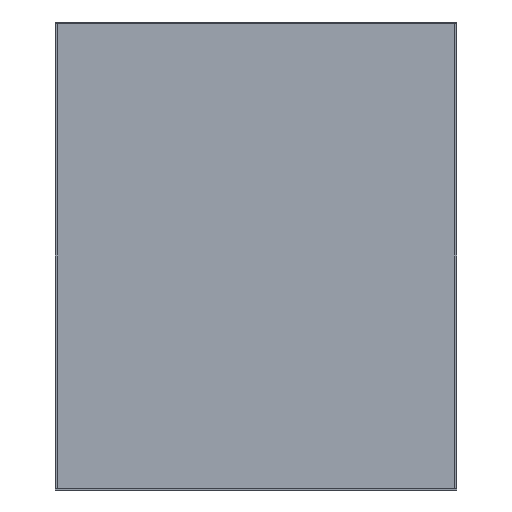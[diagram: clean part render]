
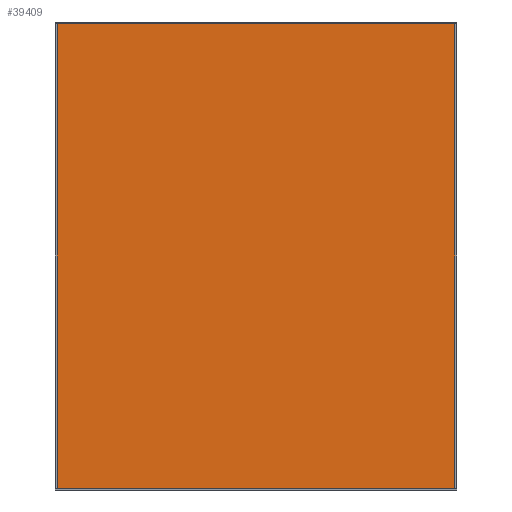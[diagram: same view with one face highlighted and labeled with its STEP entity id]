
A CAD part, front view. The second image highlights one B-rep face of the part: STEP entity #39409.
In plain terms, the highlighted planar face has unit normal (0, -1, 0).
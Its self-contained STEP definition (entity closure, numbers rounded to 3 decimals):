
#39193 = EDGE_CURVE('',#39194,#39196,#39198,.T.);
#39194 = VERTEX_POINT('',#39195);
#39195 = CARTESIAN_POINT('',(-0.155,-0.096,0.002)
  );
#39196 = VERTEX_POINT('',#39197);
#39197 = CARTESIAN_POINT('',(-0.155,-0.096,
    0.364));
#39198 = SURFACE_CURVE('',#39199,(#39203,#39215),.PCURVE_S1.);
#39199 = LINE('',#39200,#39201);
#39200 = CARTESIAN_POINT('',(-0.155,-0.096,0.002)
  );
#39201 = VECTOR('',#39202,1.);
#39202 = DIRECTION('',(0.,0.,1.));
#39203 = PCURVE('',#39204,#39209);
#39204 = PLANE('',#39205);
#39205 = AXIS2_PLACEMENT_3D('',#39206,#39207,#39208);
#39206 = CARTESIAN_POINT('',(-0.155,-0.096,0.002)
  );
#39207 = DIRECTION('',(1.,0.,0.));
#39208 = DIRECTION('',(0.,0.,1.));
#39209 = DEFINITIONAL_REPRESENTATION('',(#39210),#39214);
#39210 = LINE('',#39211,#39212);
#39211 = CARTESIAN_POINT('',(0.,0.));
#39212 = VECTOR('',#39213,1.);
#39213 = DIRECTION('',(1.,0.));
#39214 = ( GEOMETRIC_REPRESENTATION_CONTEXT(2) 
PARAMETRIC_REPRESENTATION_CONTEXT() REPRESENTATION_CONTEXT('2D SPACE',''
  ) );
#39215 = PCURVE('',#39216,#39221);
#39216 = PLANE('',#39217);
#39217 = AXIS2_PLACEMENT_3D('',#39218,#39219,#39220);
#39218 = CARTESIAN_POINT('',(-0.155,-0.096,0.002)
  );
#39219 = DIRECTION('',(0.,1.,0.));
#39220 = DIRECTION('',(0.,0.,1.));
#39221 = DEFINITIONAL_REPRESENTATION('',(#39222),#39226);
#39222 = LINE('',#39223,#39224);
#39223 = CARTESIAN_POINT('',(0.,0.));
#39224 = VECTOR('',#39225,1.);
#39225 = DIRECTION('',(1.,0.));
#39226 = ( GEOMETRIC_REPRESENTATION_CONTEXT(2) 
PARAMETRIC_REPRESENTATION_CONTEXT() REPRESENTATION_CONTEXT('2D SPACE',''
  ) );
#39244 = PLANE('',#39245);
#39245 = AXIS2_PLACEMENT_3D('',#39246,#39247,#39248);
#39246 = CARTESIAN_POINT('',(-0.155,-0.096,0.002)
  );
#39247 = DIRECTION('',(0.,0.,1.));
#39248 = DIRECTION('',(1.,0.,0.));
#39298 = PLANE('',#39299);
#39299 = AXIS2_PLACEMENT_3D('',#39300,#39301,#39302);
#39300 = CARTESIAN_POINT('',(-0.155,-0.096,
    0.364));
#39301 = DIRECTION('',(0.,0.,1.));
#39302 = DIRECTION('',(1.,0.,0.));
#39313 = EDGE_CURVE('',#39314,#39316,#39318,.T.);
#39314 = VERTEX_POINT('',#39315);
#39315 = CARTESIAN_POINT('',(0.155,-0.096,0.002)
  );
#39316 = VERTEX_POINT('',#39317);
#39317 = CARTESIAN_POINT('',(0.155,-0.096,
    0.364));
#39318 = SURFACE_CURVE('',#39319,(#39323,#39335),.PCURVE_S1.);
#39319 = LINE('',#39320,#39321);
#39320 = CARTESIAN_POINT('',(0.155,-0.096,0.002)
  );
#39321 = VECTOR('',#39322,1.);
#39322 = DIRECTION('',(0.,0.,1.));
#39323 = PCURVE('',#39324,#39329);
#39324 = PLANE('',#39325);
#39325 = AXIS2_PLACEMENT_3D('',#39326,#39327,#39328);
#39326 = CARTESIAN_POINT('',(0.155,-0.096,0.002)
  );
#39327 = DIRECTION('',(1.,0.,0.));
#39328 = DIRECTION('',(0.,0.,1.));
#39329 = DEFINITIONAL_REPRESENTATION('',(#39330),#39334);
#39330 = LINE('',#39331,#39332);
#39331 = CARTESIAN_POINT('',(0.,0.));
#39332 = VECTOR('',#39333,1.);
#39333 = DIRECTION('',(1.,0.));
#39334 = ( GEOMETRIC_REPRESENTATION_CONTEXT(2) 
PARAMETRIC_REPRESENTATION_CONTEXT() REPRESENTATION_CONTEXT('2D SPACE',''
  ) );
#39335 = PCURVE('',#39216,#39336);
#39336 = DEFINITIONAL_REPRESENTATION('',(#39337),#39341);
#39337 = LINE('',#39338,#39339);
#39338 = CARTESIAN_POINT('',(0.,0.31));
#39339 = VECTOR('',#39340,1.);
#39340 = DIRECTION('',(1.,0.));
#39341 = ( GEOMETRIC_REPRESENTATION_CONTEXT(2) 
PARAMETRIC_REPRESENTATION_CONTEXT() REPRESENTATION_CONTEXT('2D SPACE',''
  ) );
#39409 = ADVANCED_FACE('',(#39410),#39216,.F.);
#39410 = FACE_BOUND('',#39411,.F.);
#39411 = EDGE_LOOP('',(#39412,#39433,#39434,#39455));
#39412 = ORIENTED_EDGE('',*,*,#39413,.F.);
#39413 = EDGE_CURVE('',#39194,#39314,#39414,.T.);
#39414 = SURFACE_CURVE('',#39415,(#39419,#39426),.PCURVE_S1.);
#39415 = LINE('',#39416,#39417);
#39416 = CARTESIAN_POINT('',(-0.155,-0.096,0.002)
  );
#39417 = VECTOR('',#39418,1.);
#39418 = DIRECTION('',(1.,0.,0.));
#39419 = PCURVE('',#39216,#39420);
#39420 = DEFINITIONAL_REPRESENTATION('',(#39421),#39425);
#39421 = LINE('',#39422,#39423);
#39422 = CARTESIAN_POINT('',(0.,0.));
#39423 = VECTOR('',#39424,1.);
#39424 = DIRECTION('',(0.,1.));
#39425 = ( GEOMETRIC_REPRESENTATION_CONTEXT(2) 
PARAMETRIC_REPRESENTATION_CONTEXT() REPRESENTATION_CONTEXT('2D SPACE',''
  ) );
#39426 = PCURVE('',#39244,#39427);
#39427 = DEFINITIONAL_REPRESENTATION('',(#39428),#39432);
#39428 = LINE('',#39429,#39430);
#39429 = CARTESIAN_POINT('',(0.,0.));
#39430 = VECTOR('',#39431,1.);
#39431 = DIRECTION('',(1.,0.));
#39432 = ( GEOMETRIC_REPRESENTATION_CONTEXT(2) 
PARAMETRIC_REPRESENTATION_CONTEXT() REPRESENTATION_CONTEXT('2D SPACE',''
  ) );
#39433 = ORIENTED_EDGE('',*,*,#39193,.T.);
#39434 = ORIENTED_EDGE('',*,*,#39435,.T.);
#39435 = EDGE_CURVE('',#39196,#39316,#39436,.T.);
#39436 = SURFACE_CURVE('',#39437,(#39441,#39448),.PCURVE_S1.);
#39437 = LINE('',#39438,#39439);
#39438 = CARTESIAN_POINT('',(-0.155,-0.096,
    0.364));
#39439 = VECTOR('',#39440,1.);
#39440 = DIRECTION('',(1.,0.,0.));
#39441 = PCURVE('',#39216,#39442);
#39442 = DEFINITIONAL_REPRESENTATION('',(#39443),#39447);
#39443 = LINE('',#39444,#39445);
#39444 = CARTESIAN_POINT('',(0.362,0.));
#39445 = VECTOR('',#39446,1.);
#39446 = DIRECTION('',(0.,1.));
#39447 = ( GEOMETRIC_REPRESENTATION_CONTEXT(2) 
PARAMETRIC_REPRESENTATION_CONTEXT() REPRESENTATION_CONTEXT('2D SPACE',''
  ) );
#39448 = PCURVE('',#39298,#39449);
#39449 = DEFINITIONAL_REPRESENTATION('',(#39450),#39454);
#39450 = LINE('',#39451,#39452);
#39451 = CARTESIAN_POINT('',(0.,0.));
#39452 = VECTOR('',#39453,1.);
#39453 = DIRECTION('',(1.,0.));
#39454 = ( GEOMETRIC_REPRESENTATION_CONTEXT(2) 
PARAMETRIC_REPRESENTATION_CONTEXT() REPRESENTATION_CONTEXT('2D SPACE',''
  ) );
#39455 = ORIENTED_EDGE('',*,*,#39313,.F.);
